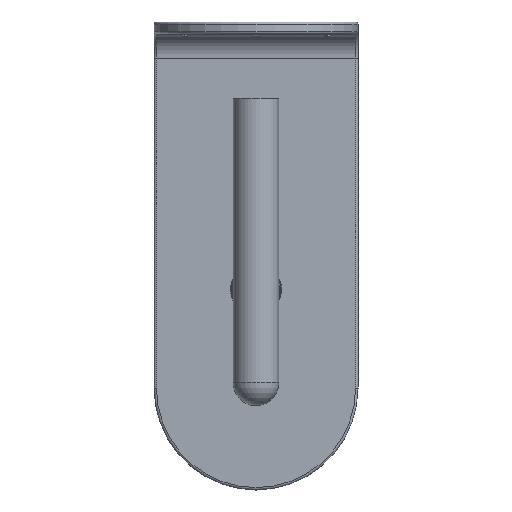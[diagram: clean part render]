
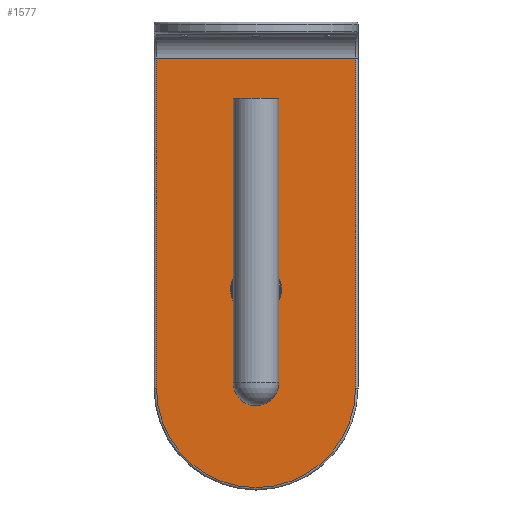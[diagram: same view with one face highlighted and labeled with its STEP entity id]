
A CAD part, front view. The second image highlights one B-rep face of the part: STEP entity #1577.
In plain terms, the highlighted planar face has unit normal (0, -1, 0).
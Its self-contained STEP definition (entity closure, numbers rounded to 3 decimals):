
#1577 = ADVANCED_FACE( '', ( #3239, #3240 ), #3241, .F. );
#3239 = FACE_BOUND( '', #5968, .T. );
#3240 = FACE_OUTER_BOUND( '', #5969, .T. );
#3241 = PLANE( '', #5970 );
#5968 = EDGE_LOOP( '', ( #10031 ) );
#5969 = EDGE_LOOP( '', ( #10032, #10033, #10034, #10035 ) );
#5970 = AXIS2_PLACEMENT_3D( '', #10036, #10037, #10038 );
#10031 = ORIENTED_EDGE( '', *, *, #12870, .T. );
#10032 = ORIENTED_EDGE( '', *, *, #13464, .T. );
#10033 = ORIENTED_EDGE( '', *, *, #13276, .T. );
#10034 = ORIENTED_EDGE( '', *, *, #13465, .T. );
#10035 = ORIENTED_EDGE( '', *, *, #13369, .T. );
#10036 = CARTESIAN_POINT( '', ( 244.727, -27.5, -15. ) );
#10037 = DIRECTION( '', ( 0., 1., 0. ) );
#10038 = DIRECTION( '', ( 0., 0., 1. ) );
#12870 = EDGE_CURVE( '', #15437, #15437, #15438, .T. );
#13276 = EDGE_CURVE( '', #14282, #15997, #15999, .T. );
#13369 = EDGE_CURVE( '', #16116, #14862, #16117, .F. );
#13464 = EDGE_CURVE( '', #14862, #14282, #16232, .T. );
#13465 = EDGE_CURVE( '', #15997, #16116, #16233, .F. );
#14282 = VERTEX_POINT( '', #17428 );
#14862 = VERTEX_POINT( '', #18472 );
#15437 = VERTEX_POINT( '', #19755 );
#15438 = CIRCLE( '', #19756, 10.618 );
#15997 = VERTEX_POINT( '', #20924 );
#15999 = LINE( '', #20926, #20927 );
#16116 = VERTEX_POINT( '', #21189 );
#16117 = LINE( '', #21190, #21191 );
#16232 = LINE( '', #21384, #21385 );
#16233 = CIRCLE( '', #21386, 41.5 );
#17428 = CARTESIAN_POINT( '', ( -41.5, -27.5, -15. ) );
#18472 = CARTESIAN_POINT( '', ( 41.5, -27.5, -15. ) );
#19755 = CARTESIAN_POINT( '', ( 0., -27.5, -100.882 ) );
#19756 = AXIS2_PLACEMENT_3D( '', #23126, #23127, #23128 );
#20924 = CARTESIAN_POINT( '', ( -41.5, -27.5, -152.5 ) );
#20926 = CARTESIAN_POINT( '', ( -41.5, -27.5, -152.5 ) );
#20927 = VECTOR( '', #23521, 1000. );
#21189 = CARTESIAN_POINT( '', ( 41.5, -27.5, -152.5 ) );
#21190 = CARTESIAN_POINT( '', ( 41.5, -27.5, -15. ) );
#21191 = VECTOR( '', #23608, 1000. );
#21384 = CARTESIAN_POINT( '', ( 244.727, -27.5, -15. ) );
#21385 = VECTOR( '', #23696, 1000. );
#21386 = AXIS2_PLACEMENT_3D( '', #23697, #23698, #23699 );
#23126 = CARTESIAN_POINT( '', ( 0., -27.5, -111.5 ) );
#23127 = DIRECTION( '', ( 0., 1., 0. ) );
#23128 = DIRECTION( '', ( 0., 0., 1. ) );
#23521 = DIRECTION( '', ( 0., 0., -1. ) );
#23608 = DIRECTION( '', ( 0., 0., -1. ) );
#23696 = DIRECTION( '', ( -1., 0., 0. ) );
#23697 = CARTESIAN_POINT( '', ( 0., -27.5, -152.5 ) );
#23698 = DIRECTION( '', ( 0., 1., 0. ) );
#23699 = DIRECTION( '', ( 0., 0., 1. ) );
